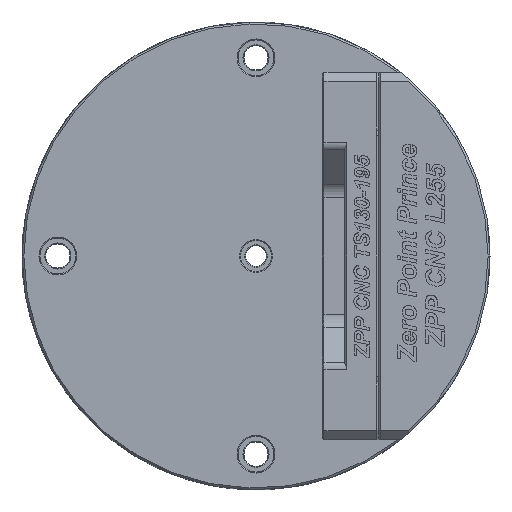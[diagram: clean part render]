
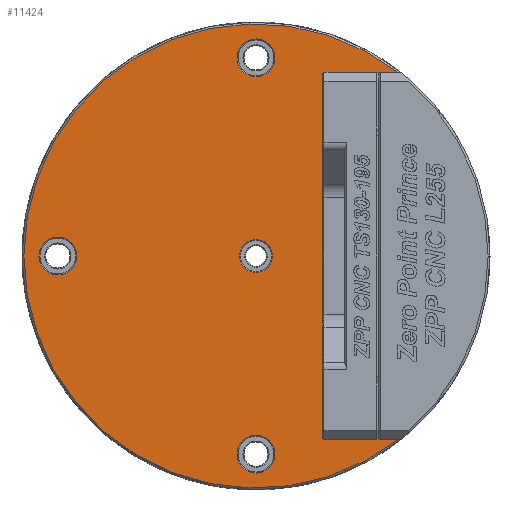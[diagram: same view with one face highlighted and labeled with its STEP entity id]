
A CAD part, left-side view. The second image highlights one B-rep face of the part: STEP entity #11424.
In plain terms, the highlighted planar face has unit normal (-1, 0, 0).
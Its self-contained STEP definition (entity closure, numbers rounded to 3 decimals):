
#635=CARTESIAN_POINT('',(0.,105.,0.));
#636=DIRECTION('',(1.,0.,0.));
#637=DIRECTION('',(0.,0.,-1.));
#638=AXIS2_PLACEMENT_3D('',#635,#636,#637);
#640=CARTESIAN_POINT('',(0.,105.,0.));
#641=DIRECTION('',(1.,0.,0.));
#642=DIRECTION('',(0.,0.,1.));
#643=AXIS2_PLACEMENT_3D('',#640,#641,#642);
#645=CARTESIAN_POINT('',(0.,0.,-105.));
#646=DIRECTION('',(1.,0.,0.));
#647=DIRECTION('',(0.,0.,1.));
#648=AXIS2_PLACEMENT_3D('',#645,#646,#647);
#650=CARTESIAN_POINT('',(0.,0.,-105.));
#651=DIRECTION('',(1.,0.,0.));
#652=DIRECTION('',(0.,0.,-1.));
#653=AXIS2_PLACEMENT_3D('',#650,#651,#652);
#655=CARTESIAN_POINT('',(0.,0.,105.));
#656=DIRECTION('',(1.,0.,0.));
#657=DIRECTION('',(0.,0.,-1.));
#658=AXIS2_PLACEMENT_3D('',#655,#656,#657);
#660=CARTESIAN_POINT('',(0.,0.,105.));
#661=DIRECTION('',(1.,0.,0.));
#662=DIRECTION('',(0.,0.,1.));
#663=AXIS2_PLACEMENT_3D('',#660,#661,#662);
#665=CARTESIAN_POINT('',(0.,0.,0.));
#666=DIRECTION('',(1.,0.,0.));
#667=DIRECTION('',(0.,0.,1.));
#668=AXIS2_PLACEMENT_3D('',#665,#666,#667);
#670=CARTESIAN_POINT('',(0.,0.,0.));
#671=DIRECTION('',(1.,0.,0.));
#672=DIRECTION('',(0.,0.,-1.));
#673=AXIS2_PLACEMENT_3D('',#670,#671,#672);
#675=DIRECTION('',(0.,1.,0.));
#676=VECTOR('',#675,27.844);
#677=CARTESIAN_POINT('',(0.,-74.985,97.5));
#678=LINE('',#677,#676);
#679=DIRECTION('',(0.,-1.,0.));
#680=VECTOR('',#679,27.844);
#681=CARTESIAN_POINT('',(0.,-47.141,-97.5));
#682=LINE('',#681,#680);
#895=CARTESIAN_POINT('',(0.,0.,
0.));
#896=DIRECTION('',(-1.,0.,0.));
#897=DIRECTION('',(0.,-0.61,0.793));
#898=AXIS2_PLACEMENT_3D('',#895,#896,#897);
#7316=CARTESIAN_POINT('',(0.,-47.141,-97.5));
#7317=CARTESIAN_POINT('',(0.,-46.285,-97.265));
#7318=CARTESIAN_POINT('',(0.,-44.612,-96.885));
#7319=CARTESIAN_POINT('',(0.,-42.281,-96.569));
#7320=CARTESIAN_POINT('',(0.,-40.751,-96.5));
#7321=CARTESIAN_POINT('',(0.,-40.,-96.5));
#7328=DIRECTION('',(0.,0.,1.));
#7329=VECTOR('',#7328,193.);
#7330=CARTESIAN_POINT('',(0.,-40.,-96.5));
#7331=LINE('',#7330,#7329);
#7397=CARTESIAN_POINT('',(0.,-40.,96.5));
#7398=CARTESIAN_POINT('',(0.,-40.751,96.5));
#7399=CARTESIAN_POINT('',(0.,-42.28,96.569));
#7400=CARTESIAN_POINT('',(0.,-44.611,96.885));
#7401=CARTESIAN_POINT('',(0.,-46.284,97.265));
#7402=CARTESIAN_POINT('',(0.,-47.141,97.5));
#8512=CARTESIAN_POINT('',(0.,0.,8.75));
#8513=CARTESIAN_POINT('',(0.,0.,-8.75));
#8514=VERTEX_POINT('',#8512);
#8515=VERTEX_POINT('',#8513);
#8636=CARTESIAN_POINT('',(0.,0.,95.));
#8637=CARTESIAN_POINT('',(0.,0.,115.));
#8638=VERTEX_POINT('',#8636);
#8639=VERTEX_POINT('',#8637);
#8668=CARTESIAN_POINT('',(0.,0.,-95.));
#8669=CARTESIAN_POINT('',(0.,0.,-115.));
#8670=VERTEX_POINT('',#8668);
#8671=VERTEX_POINT('',#8669);
#8692=CARTESIAN_POINT('',(0.,105.,-10.));
#8693=CARTESIAN_POINT('',(0.,105.,10.));
#8694=VERTEX_POINT('',#8692);
#8695=VERTEX_POINT('',#8693);
#10344=CARTESIAN_POINT('',(0.,-40.,-96.5));
#10346=VERTEX_POINT('',#10344);
#10348=CARTESIAN_POINT('',(0.,-47.141,-97.5));
#10350=VERTEX_POINT('',#10348);
#10360=CARTESIAN_POINT('',(0.,-47.141,97.5));
#10362=VERTEX_POINT('',#10360);
#10364=CARTESIAN_POINT('',(0.,-40.,96.5));
#10366=VERTEX_POINT('',#10364);
#10460=CARTESIAN_POINT('',(0.,-74.985,-97.5));
#10461=VERTEX_POINT('',#10460);
#10462=CARTESIAN_POINT('',(0.,-74.985,97.5));
#10463=VERTEX_POINT('',#10462);
#11382=CARTESIAN_POINT('',(0.,0.,0.));
#11383=DIRECTION('',(1.,0.,0.));
#11384=DIRECTION('',(0.,-1.,0.));
#11385=AXIS2_PLACEMENT_3D('',#11382,#11383,#11384);
#11386=PLANE('',#11385);
#11388=ORIENTED_EDGE('',*,*,#11387,.F.);
#11390=ORIENTED_EDGE('',*,*,#11389,.T.);
#11392=ORIENTED_EDGE('',*,*,#11391,.F.);
#11394=ORIENTED_EDGE('',*,*,#11393,.F.);
#11396=ORIENTED_EDGE('',*,*,#11395,.F.);
#11398=ORIENTED_EDGE('',*,*,#11397,.T.);
#11399=EDGE_LOOP('',(#11388,#11390,#11392,#11394,#11396,#11398));
#11400=FACE_OUTER_BOUND('',#11399,.F.);
#11402=ORIENTED_EDGE('',*,*,#11401,.F.);
#11404=ORIENTED_EDGE('',*,*,#11403,.F.);
#11405=EDGE_LOOP('',(#11402,#11404));
#11406=FACE_BOUND('',#11405,.F.);
#11407=ORIENTED_EDGE('',*,*,#11372,.F.);
#11409=ORIENTED_EDGE('',*,*,#11408,.F.);
#11410=EDGE_LOOP('',(#11407,#11409));
#11411=FACE_BOUND('',#11410,.F.);
#11413=ORIENTED_EDGE('',*,*,#11412,.F.);
#11415=ORIENTED_EDGE('',*,*,#11414,.F.);
#11416=EDGE_LOOP('',(#11413,#11415));
#11417=FACE_BOUND('',#11416,.F.);
#11419=ORIENTED_EDGE('',*,*,#11418,.F.);
#11421=ORIENTED_EDGE('',*,*,#11420,.F.);
#11422=EDGE_LOOP('',(#11419,#11421));
#11423=FACE_BOUND('',#11422,.F.);
#11424=ADVANCED_FACE('',(#11400,#11406,#11411,#11417,#11423),#11386,.F.);
#639=CIRCLE('',#638,10.);
#644=CIRCLE('',#643,10.);
#649=CIRCLE('',#648,10.);
#654=CIRCLE('',#653,10.);
#659=CIRCLE('',#658,10.);
#664=CIRCLE('',#663,10.);
#669=CIRCLE('',#668,8.75);
#674=CIRCLE('',#673,8.75);
#899=CIRCLE('',#898,123.);
#7322=B_SPLINE_CURVE_WITH_KNOTS('',3,(#7316,#7317,#7318,#7319,#7320,#7321),
.UNSPECIFIED.,.F.,.F.,(4,1,1,4),(0.,0.333,0.667,1.),
.UNSPECIFIED.);
#7403=B_SPLINE_CURVE_WITH_KNOTS('',3,(#7397,#7398,#7399,#7400,#7401,#7402),
.UNSPECIFIED.,.F.,.F.,(4,1,1,4),(0.,0.333,0.667,1.),
.UNSPECIFIED.);
#11372=EDGE_CURVE('',#8638,#8639,#659,.T.);
#11387=EDGE_CURVE('',#10463,#10461,#899,.T.);
#11389=EDGE_CURVE('',#10463,#10362,#678,.T.);
#11391=EDGE_CURVE('',#10366,#10362,#7403,.T.);
#11393=EDGE_CURVE('',#10346,#10366,#7331,.T.);
#11395=EDGE_CURVE('',#10350,#10346,#7322,.T.);
#11397=EDGE_CURVE('',#10350,#10461,#682,.T.);
#11401=EDGE_CURVE('',#8670,#8671,#649,.T.);
#11403=EDGE_CURVE('',#8671,#8670,#654,.T.);
#11408=EDGE_CURVE('',#8639,#8638,#664,.T.);
#11412=EDGE_CURVE('',#8514,#8515,#669,.T.);
#11414=EDGE_CURVE('',#8515,#8514,#674,.T.);
#11418=EDGE_CURVE('',#8694,#8695,#639,.T.);
#11420=EDGE_CURVE('',#8695,#8694,#644,.T.);
